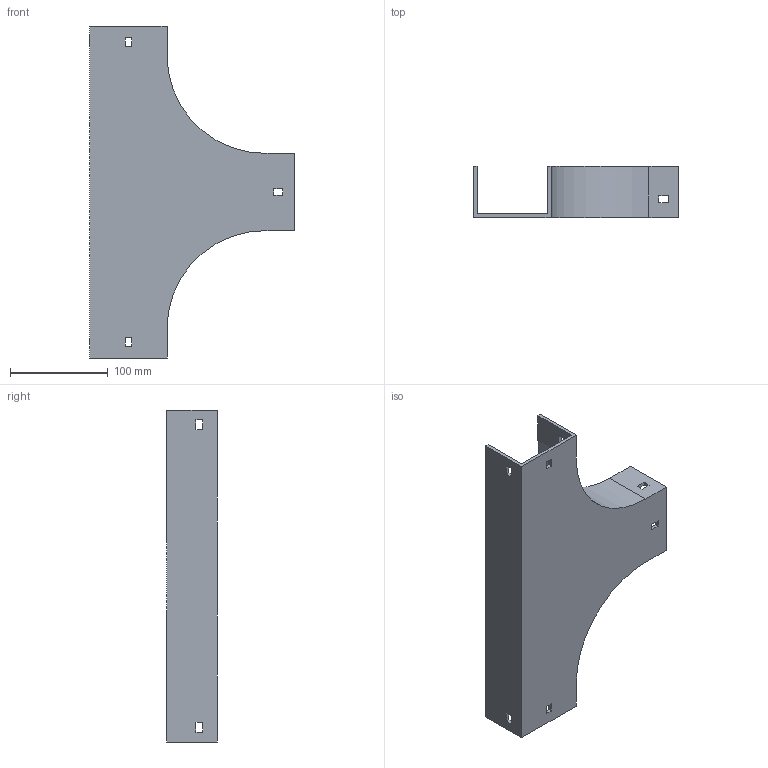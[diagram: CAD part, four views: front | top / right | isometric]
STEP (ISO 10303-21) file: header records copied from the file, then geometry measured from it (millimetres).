
FILE_DESCRIPTION (( 'STEP AP214' ), '1' );
FILE_NAME ('15F1B075.step', '2025-02-21T13:04:03', ( '' ), ( '' ), 'SwSTEP 2.0', 'SolidWorks 2023', '' );
FILE_SCHEMA (( 'AUTOMOTIVE_DESIGN' ));
Length unit declared in the file: millimetre
Products named in the file (1): 15F1B075
Bounding box: 209 x 52 x 339 mm (x, y, z)
Volume: 274793.4 mm3; surface area: 162618.4 mm2
Topology: 1 solids, 1 shells, 58 faces, 168 edges, 112 vertices
Faces by surface type: plane 54, cylinder 4
Entity records: 1939 total; most frequent: CARTESIAN_POINT 339, ORIENTED_EDGE 336, DIRECTION 294, EDGE_CURVE 168, LINE 160, VECTOR 160, VERTEX_POINT 112, EDGE_LOOP 76
